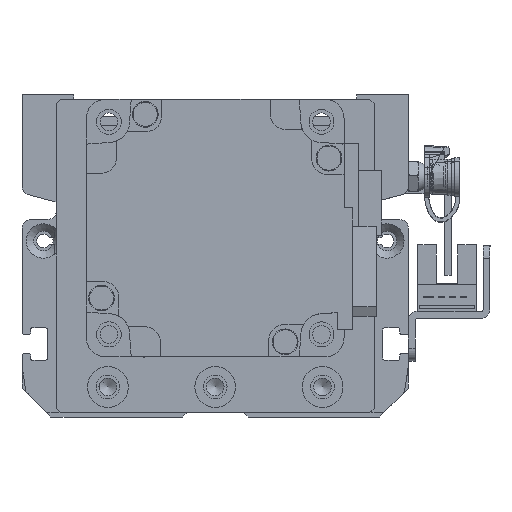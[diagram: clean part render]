
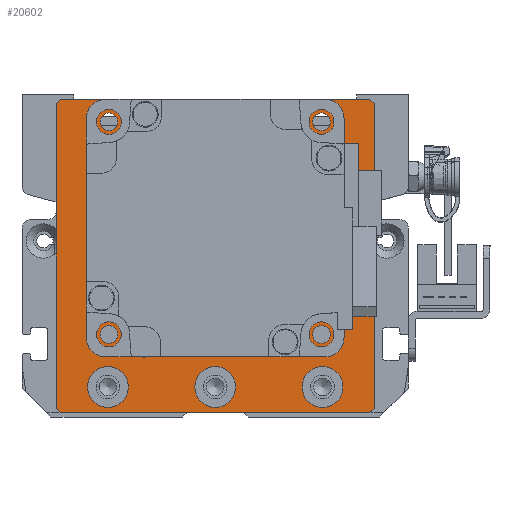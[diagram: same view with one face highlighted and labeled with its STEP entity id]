
A CAD part, left-side view. The second image highlights one B-rep face of the part: STEP entity #20602.
In plain terms, the highlighted planar face has unit normal (-1, 0, 0) as drawn and (0, 0, 1) by its records, which use the part's own axes.
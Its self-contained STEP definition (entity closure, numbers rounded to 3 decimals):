
#688=FACE_BOUND('',#3779,.T.);
#689=FACE_BOUND('',#3780,.T.);
#690=FACE_BOUND('',#3781,.T.);
#691=FACE_BOUND('',#3782,.T.);
#692=FACE_BOUND('',#3783,.T.);
#693=FACE_BOUND('',#3784,.T.);
#694=FACE_BOUND('',#3785,.T.);
#695=FACE_BOUND('',#3786,.T.);
#1099=PLANE('',#22787);
#2454=FACE_OUTER_BOUND('',#3778,.T.);
#3778=EDGE_LOOP('',(#17222,#17223,#17224,#17225,#17226,#17227,#17228,#17229));
#3779=EDGE_LOOP('',(#17230));
#3780=EDGE_LOOP('',(#17231));
#3781=EDGE_LOOP('',(#17232));
#3782=EDGE_LOOP('',(#17233));
#3783=EDGE_LOOP('',(#17234));
#3784=EDGE_LOOP('',(#17235));
#3785=EDGE_LOOP('',(#17236));
#3786=EDGE_LOOP('',(#17237));
#5391=LINE('',#33845,#7133);
#5397=LINE('',#33856,#7139);
#5404=LINE('',#33891,#7146);
#5407=LINE('',#33896,#7149);
#5413=LINE('',#33917,#7155);
#5416=LINE('',#33922,#7158);
#5417=LINE('',#33925,#7159);
#5425=LINE('',#33964,#7167);
#7133=VECTOR('',#27090,10.);
#7139=VECTOR('',#27098,10.);
#7146=VECTOR('',#27129,10.);
#7149=VECTOR('',#27134,10.);
#7155=VECTOR('',#27158,10.);
#7158=VECTOR('',#27163,10.);
#7159=VECTOR('',#27166,10.);
#7167=VECTOR('',#27216,10.);
#8514=CIRCLE('',#22756,4.75);
#8517=CIRCLE('',#22762,4.75);
#8520=CIRCLE('',#22768,4.75);
#8522=CIRCLE('',#22774,2.067);
#8523=CIRCLE('',#22776,2.067);
#8524=CIRCLE('',#22778,2.067);
#8525=CIRCLE('',#22780,2.067);
#8528=CIRCLE('',#22785,25.);
#10055=VERTEX_POINT('',#33843);
#10056=VERTEX_POINT('',#33844);
#10060=VERTEX_POINT('',#33854);
#10076=VERTEX_POINT('',#33890);
#10077=VERTEX_POINT('',#33894);
#10083=VERTEX_POINT('',#33916);
#10084=VERTEX_POINT('',#33920);
#10085=VERTEX_POINT('',#33924);
#10088=VERTEX_POINT('',#33933);
#10091=VERTEX_POINT('',#33944);
#10094=VERTEX_POINT('',#33955);
#10096=VERTEX_POINT('',#33966);
#10097=VERTEX_POINT('',#33970);
#10098=VERTEX_POINT('',#33974);
#10099=VERTEX_POINT('',#33978);
#10102=VERTEX_POINT('',#33987);
#12553=EDGE_CURVE('',#10055,#10056,#5391,.T.);
#12559=EDGE_CURVE('',#10055,#10060,#5397,.T.);
#12576=EDGE_CURVE('',#10076,#10060,#5404,.T.);
#12579=EDGE_CURVE('',#10076,#10077,#5407,.T.);
#12588=EDGE_CURVE('',#10083,#10077,#5413,.T.);
#12591=EDGE_CURVE('',#10083,#10084,#5416,.T.);
#12592=EDGE_CURVE('',#10085,#10084,#5417,.T.);
#12596=EDGE_CURVE('',#10088,#10088,#8514,.T.);
#12601=EDGE_CURVE('',#10091,#10091,#8517,.T.);
#12606=EDGE_CURVE('',#10094,#10094,#8520,.T.);
#12610=EDGE_CURVE('',#10085,#10056,#5425,.T.);
#12611=EDGE_CURVE('',#10096,#10096,#8522,.T.);
#12613=EDGE_CURVE('',#10097,#10097,#8523,.T.);
#12615=EDGE_CURVE('',#10098,#10098,#8524,.T.);
#12617=EDGE_CURVE('',#10099,#10099,#8525,.T.);
#12621=EDGE_CURVE('',#10102,#10102,#8528,.T.);
#17222=ORIENTED_EDGE('',*,*,#12553,.F.);
#17223=ORIENTED_EDGE('',*,*,#12559,.T.);
#17224=ORIENTED_EDGE('',*,*,#12576,.F.);
#17225=ORIENTED_EDGE('',*,*,#12579,.T.);
#17226=ORIENTED_EDGE('',*,*,#12588,.F.);
#17227=ORIENTED_EDGE('',*,*,#12591,.T.);
#17228=ORIENTED_EDGE('',*,*,#12592,.F.);
#17229=ORIENTED_EDGE('',*,*,#12610,.T.);
#17230=ORIENTED_EDGE('',*,*,#12596,.T.);
#17231=ORIENTED_EDGE('',*,*,#12601,.T.);
#17232=ORIENTED_EDGE('',*,*,#12606,.T.);
#17233=ORIENTED_EDGE('',*,*,#12611,.T.);
#17234=ORIENTED_EDGE('',*,*,#12613,.T.);
#17235=ORIENTED_EDGE('',*,*,#12615,.T.);
#17236=ORIENTED_EDGE('',*,*,#12617,.T.);
#17237=ORIENTED_EDGE('',*,*,#12621,.T.);
#20602=ADVANCED_FACE('',(#2454,#688,#689,#690,#691,#692,#693,#694,#695),
#1099,.T.);
#22756=AXIS2_PLACEMENT_3D('',#33934,#27176,#27177);
#22762=AXIS2_PLACEMENT_3D('',#33945,#27190,#27191);
#22768=AXIS2_PLACEMENT_3D('',#33956,#27204,#27205);
#22774=AXIS2_PLACEMENT_3D('',#33967,#27219,#27220);
#22776=AXIS2_PLACEMENT_3D('',#33971,#27224,#27225);
#22778=AXIS2_PLACEMENT_3D('',#33975,#27229,#27230);
#22780=AXIS2_PLACEMENT_3D('',#33979,#27234,#27235);
#22785=AXIS2_PLACEMENT_3D('',#33988,#27245,#27246);
#22787=AXIS2_PLACEMENT_3D('',#33992,#27251,#27252);
#27090=DIRECTION('',(0.707,-0.707,0.));
#27098=DIRECTION('',(-1.,0.,0.));
#27129=DIRECTION('',(0.707,0.707,0.));
#27134=DIRECTION('',(0.,-1.,0.));
#27158=DIRECTION('',(-0.707,0.707,0.));
#27163=DIRECTION('',(1.,0.,0.));
#27166=DIRECTION('',(-0.707,-0.707,0.));
#27176=DIRECTION('center_axis',(0.,0.,-1.));
#27177=DIRECTION('ref_axis',(1.,0.,0.));
#27190=DIRECTION('center_axis',(0.,0.,-1.));
#27191=DIRECTION('ref_axis',(1.,0.,0.));
#27204=DIRECTION('center_axis',(0.,0.,-1.));
#27205=DIRECTION('ref_axis',(1.,0.,0.));
#27216=DIRECTION('',(0.,1.,0.));
#27219=DIRECTION('center_axis',(0.,0.,-1.));
#27220=DIRECTION('ref_axis',(1.,0.,0.));
#27224=DIRECTION('center_axis',(0.,0.,-1.));
#27225=DIRECTION('ref_axis',(1.,0.,0.));
#27229=DIRECTION('center_axis',(0.,0.,-1.));
#27230=DIRECTION('ref_axis',(1.,0.,0.));
#27234=DIRECTION('center_axis',(0.,0.,-1.));
#27235=DIRECTION('ref_axis',(1.,0.,0.));
#27245=DIRECTION('center_axis',(0.,0.,-1.));
#27246=DIRECTION('ref_axis',(1.,0.,0.));
#27251=DIRECTION('center_axis',(0.,0.,1.));
#27252=DIRECTION('ref_axis',(1.,0.,0.));
#33843=CARTESIAN_POINT('',(36.,37.5,59.));
#33844=CARTESIAN_POINT('',(37.,36.5,59.));
#33845=CARTESIAN_POINT('',(36.625,36.875,59.));
#33854=CARTESIAN_POINT('',(-36.,37.5,59.));
#33856=CARTESIAN_POINT('',(37.,37.5,59.));
#33890=CARTESIAN_POINT('',(-37.,36.5,59.));
#33891=CARTESIAN_POINT('',(-36.625,36.875,59.));
#33894=CARTESIAN_POINT('',(-37.,-34.5,59.));
#33896=CARTESIAN_POINT('',(-37.,35.5,59.));
#33916=CARTESIAN_POINT('',(-36.,-35.5,59.));
#33917=CARTESIAN_POINT('',(-36.125,-35.375,59.));
#33920=CARTESIAN_POINT('',(36.,-35.5,59.));
#33922=CARTESIAN_POINT('',(-37.,-35.5,59.));
#33924=CARTESIAN_POINT('',(37.,-34.5,59.));
#33925=CARTESIAN_POINT('',(36.125,-35.375,59.));
#33933=CARTESIAN_POINT('',(-29.75,-29.5,59.));
#33934=CARTESIAN_POINT('Origin',(-25.,-29.5,59.));
#33944=CARTESIAN_POINT('',(-4.75,-29.5,59.));
#33945=CARTESIAN_POINT('Origin',(0.,-29.5,59.));
#33955=CARTESIAN_POINT('',(20.25,-29.5,59.));
#33956=CARTESIAN_POINT('Origin',(25.,-29.5,59.));
#33964=CARTESIAN_POINT('',(37.,-35.5,59.));
#33966=CARTESIAN_POINT('',(-26.816,-17.249,59.));
#33967=CARTESIAN_POINT('Origin',(-24.749,-17.249,59.));
#33970=CARTESIAN_POINT('',(-26.816,32.249,59.));
#33971=CARTESIAN_POINT('Origin',(-24.749,32.249,59.));
#33974=CARTESIAN_POINT('',(22.682,32.249,59.));
#33975=CARTESIAN_POINT('Origin',(24.749,32.249,59.));
#33978=CARTESIAN_POINT('',(22.682,-17.249,59.));
#33979=CARTESIAN_POINT('Origin',(24.749,-17.249,59.));
#33987=CARTESIAN_POINT('',(-25.,7.5,59.));
#33988=CARTESIAN_POINT('Origin',(0.,7.5,59.));
#33992=CARTESIAN_POINT('Origin',(0.,0.,
59.));
